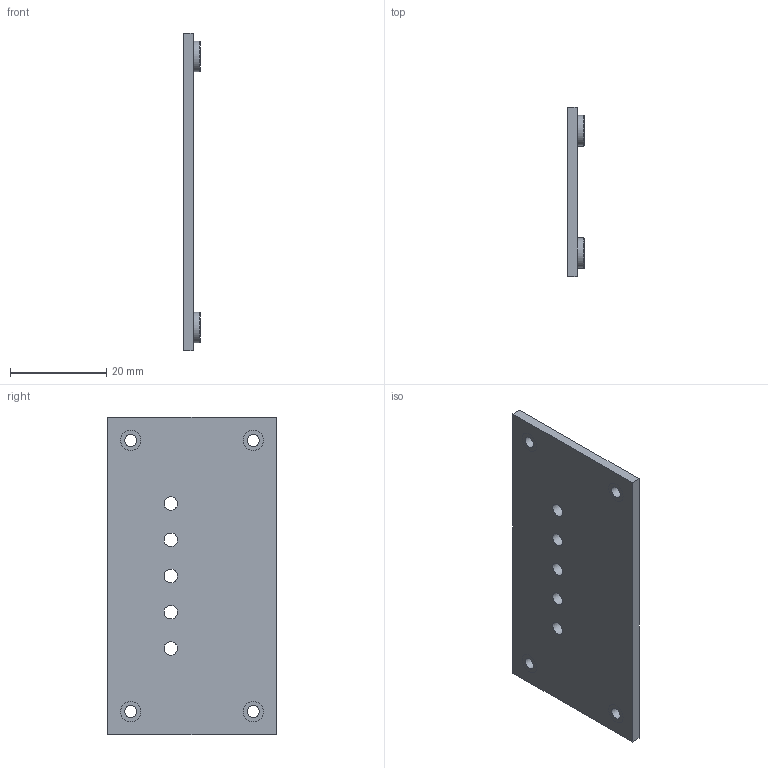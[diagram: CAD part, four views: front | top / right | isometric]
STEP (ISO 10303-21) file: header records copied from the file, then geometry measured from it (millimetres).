
FILE_DESCRIPTION(/* description */ ('','CAx-IF Rec.Pracs.---Representation and Presentation of Product Manufacturing Information (PMI)---4.0---2014-10-13'),/* implementation_level */ '2;1');
FILE_NAME(/* name */ 'G:\Alle CAD Daten\CAMTEC_2021_Pack and Go\PSU CPS-i3000 - CPS-i2000\2051033003.stp',/* time_stamp */ '2020-09-15T19:37:51+02:00',/* author */ ('rryba'),/* organization */ (''),/* preprocessor_version */ 'ST-DEVELOPER v18.1',/* originating_system */ 'Autodesk Inventor 2021',/* authorisation */ '');
FILE_SCHEMA (('AP242_MANAGED_MODEL_BASED_3D_ENGINEERING_MIM_LF { 1 0 10303 442 1 1 4 }'));
Length unit declared in the file: millimetre
Products named in the file (1): 2051033003
Bounding box: 3.5 x 35 x 65.8 mm (x, y, z)
Volume: 4664.3 mm3; surface area: 5567.3 mm2
Topology: 5 solids, 5 shells, 43 faces, 106 edges, 95 vertices
Faces by surface type: cylinder 21, plane 18, torus 4
Full cylindrical faces by diameter (mm): 2.459 x4, 2.8 x5, 4.2 x8, 6.3 x4
Entity records: 1391 total; most frequent: DIRECTION 231, CARTESIAN_POINT 226, ORIENTED_EDGE 174, AXIS2_PLACEMENT_3D 99, EDGE_CURVE 87, EDGE_LOOP 73, VERTEX_POINT 58, STYLED_ITEM 57
